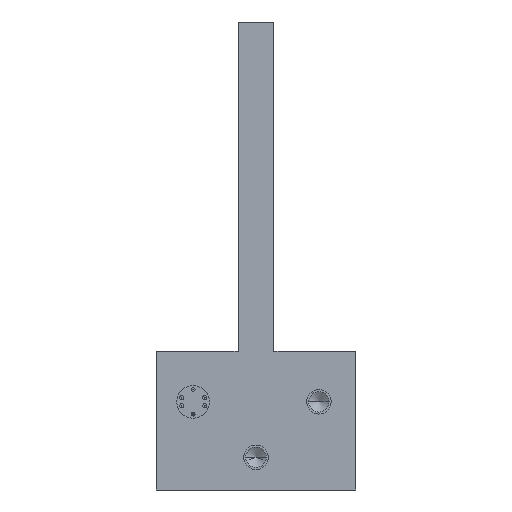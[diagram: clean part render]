
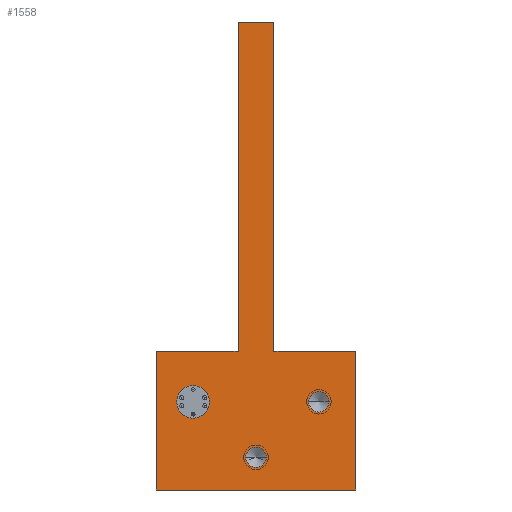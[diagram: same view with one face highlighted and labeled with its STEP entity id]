
A CAD part, front view. The second image highlights one B-rep face of the part: STEP entity #1558.
In plain terms, the highlighted planar face has unit normal (0, -1, 0).
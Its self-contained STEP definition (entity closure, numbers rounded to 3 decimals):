
#1=DIRECTION('',(1.,0.,0.));
#2=VECTOR('',#1,10.);
#3=CARTESIAN_POINT('',(2.2,-103.405,0.));
#4=LINE('',#3,#2);
#5=DIRECTION('',(0.,0.,-1.));
#6=VECTOR('',#5,17.);
#7=CARTESIAN_POINT('',(12.2,-103.405,0.));
#8=LINE('',#7,#6);
#9=DIRECTION('',(-1.,0.,0.));
#10=VECTOR('',#9,24.4);
#11=CARTESIAN_POINT('',(12.2,-103.405,-17.));
#12=LINE('',#11,#10);
#13=DIRECTION('',(0.,0.,1.));
#14=VECTOR('',#13,17.);
#15=CARTESIAN_POINT('',(-12.2,-103.405,-17.));
#16=LINE('',#15,#14);
#17=DIRECTION('',(1.,0.,0.));
#18=VECTOR('',#17,10.);
#19=CARTESIAN_POINT('',(-12.2,-103.405,0.));
#20=LINE('',#19,#18);
#21=DIRECTION('',(0.,0.,1.));
#22=VECTOR('',#21,40.3);
#23=CARTESIAN_POINT('',(-2.2,-103.405,0.));
#24=LINE('',#23,#22);
#25=DIRECTION('',(1.,0.,0.));
#26=VECTOR('',#25,4.4);
#27=CARTESIAN_POINT('',(-2.2,-103.405,40.3));
#28=LINE('',#27,#26);
#29=DIRECTION('',(0.,0.,-1.));
#30=VECTOR('',#29,40.3);
#31=CARTESIAN_POINT('',(2.2,-103.405,40.3));
#32=LINE('',#31,#30);
#33=CARTESIAN_POINT('',(0.,-103.405,-13.));
#34=DIRECTION('',(0.,-1.,0.));
#35=DIRECTION('',(-1.,0.,0.));
#36=AXIS2_PLACEMENT_3D('',#33,#34,#35);
#38=CARTESIAN_POINT('',(0.,-103.405,-13.));
#39=DIRECTION('',(0.,-1.,0.));
#40=DIRECTION('',(1.,0.,0.));
#41=AXIS2_PLACEMENT_3D('',#38,#39,#40);
#43=CARTESIAN_POINT('',(7.7,-103.405,-6.2));
#44=DIRECTION('',(0.,-1.,0.));
#45=DIRECTION('',(-1.,0.,0.));
#46=AXIS2_PLACEMENT_3D('',#43,#44,#45);
#48=CARTESIAN_POINT('',(7.7,-103.405,-6.2));
#49=DIRECTION('',(0.,-1.,0.));
#50=DIRECTION('',(1.,0.,0.));
#51=AXIS2_PLACEMENT_3D('',#48,#49,#50);
#53=CARTESIAN_POINT('',(-7.7,-103.405,-6.2));
#54=DIRECTION('',(0.,-1.,0.));
#55=DIRECTION('',(-1.,0.,0.));
#56=AXIS2_PLACEMENT_3D('',#53,#54,#55);
#58=CARTESIAN_POINT('',(-7.7,-103.405,-6.2));
#59=DIRECTION('',(0.,-1.,0.));
#60=DIRECTION('',(1.,0.,0.));
#61=AXIS2_PLACEMENT_3D('',#58,#59,#60);
#1181=CARTESIAN_POINT('',(2.2,-103.405,0.));
#1182=CARTESIAN_POINT('',(12.2,-103.405,0.));
#1183=VERTEX_POINT('',#1181);
#1184=VERTEX_POINT('',#1182);
#1185=CARTESIAN_POINT('',(12.2,-103.405,-17.));
#1186=VERTEX_POINT('',#1185);
#1187=CARTESIAN_POINT('',(-12.2,-103.405,-17.));
#1188=VERTEX_POINT('',#1187);
#1189=CARTESIAN_POINT('',(-12.2,-103.405,0.));
#1190=VERTEX_POINT('',#1189);
#1191=CARTESIAN_POINT('',(-2.2,-103.405,0.));
#1192=VERTEX_POINT('',#1191);
#1193=CARTESIAN_POINT('',(-2.2,-103.405,40.3));
#1194=VERTEX_POINT('',#1193);
#1195=CARTESIAN_POINT('',(2.2,-103.405,40.3));
#1196=VERTEX_POINT('',#1195);
#1219=CARTESIAN_POINT('',(-1.25,-103.405,-13.));
#1220=CARTESIAN_POINT('',(1.25,-103.405,-13.));
#1221=VERTEX_POINT('',#1219);
#1222=VERTEX_POINT('',#1220);
#1229=CARTESIAN_POINT('',(6.45,-103.405,-6.2));
#1230=CARTESIAN_POINT('',(8.95,-103.405,-6.2));
#1231=VERTEX_POINT('',#1229);
#1232=VERTEX_POINT('',#1230);
#1417=CARTESIAN_POINT('',(-9.7,-103.405,-6.2));
#1418=CARTESIAN_POINT('',(-5.7,-103.405,-6.2));
#1419=VERTEX_POINT('',#1417);
#1420=VERTEX_POINT('',#1418);
#1517=CARTESIAN_POINT('',(0.,-103.405,0.));
#1518=DIRECTION('',(0.,1.,0.));
#1519=DIRECTION('',(1.,0.,0.));
#1520=AXIS2_PLACEMENT_3D('',#1517,#1518,#1519);
#1521=PLANE('',#1520);
#1523=ORIENTED_EDGE('',*,*,#1522,.T.);
#1525=ORIENTED_EDGE('',*,*,#1524,.T.);
#1527=ORIENTED_EDGE('',*,*,#1526,.T.);
#1529=ORIENTED_EDGE('',*,*,#1528,.T.);
#1531=ORIENTED_EDGE('',*,*,#1530,.T.);
#1533=ORIENTED_EDGE('',*,*,#1532,.T.);
#1535=ORIENTED_EDGE('',*,*,#1534,.T.);
#1537=ORIENTED_EDGE('',*,*,#1536,.T.);
#1538=EDGE_LOOP('',(#1523,#1525,#1527,#1529,#1531,#1533,#1535,#1537));
#1539=FACE_OUTER_BOUND('',#1538,.F.);
#1541=ORIENTED_EDGE('',*,*,#1540,.T.);
#1543=ORIENTED_EDGE('',*,*,#1542,.T.);
#1544=EDGE_LOOP('',(#1541,#1543));
#1545=FACE_BOUND('',#1544,.F.);
#1547=ORIENTED_EDGE('',*,*,#1546,.T.);
#1549=ORIENTED_EDGE('',*,*,#1548,.T.);
#1550=EDGE_LOOP('',(#1547,#1549));
#1551=FACE_BOUND('',#1550,.F.);
#1553=ORIENTED_EDGE('',*,*,#1552,.T.);
#1555=ORIENTED_EDGE('',*,*,#1554,.T.);
#1556=EDGE_LOOP('',(#1553,#1555));
#1557=FACE_BOUND('',#1556,.F.);
#1558=ADVANCED_FACE('',(#1539,#1545,#1551,#1557),#1521,.F.);
#37=CIRCLE('',#36,1.25);
#42=CIRCLE('',#41,1.25);
#47=CIRCLE('',#46,1.25);
#52=CIRCLE('',#51,1.25);
#57=CIRCLE('',#56,2.);
#62=CIRCLE('',#61,2.);
#1522=EDGE_CURVE('',#1183,#1184,#4,.T.);
#1524=EDGE_CURVE('',#1184,#1186,#8,.T.);
#1526=EDGE_CURVE('',#1186,#1188,#12,.T.);
#1528=EDGE_CURVE('',#1188,#1190,#16,.T.);
#1530=EDGE_CURVE('',#1190,#1192,#20,.T.);
#1532=EDGE_CURVE('',#1192,#1194,#24,.T.);
#1534=EDGE_CURVE('',#1194,#1196,#28,.T.);
#1536=EDGE_CURVE('',#1196,#1183,#32,.T.);
#1540=EDGE_CURVE('',#1221,#1222,#37,.T.);
#1542=EDGE_CURVE('',#1222,#1221,#42,.T.);
#1546=EDGE_CURVE('',#1231,#1232,#47,.T.);
#1548=EDGE_CURVE('',#1232,#1231,#52,.T.);
#1552=EDGE_CURVE('',#1419,#1420,#57,.T.);
#1554=EDGE_CURVE('',#1420,#1419,#62,.T.);
